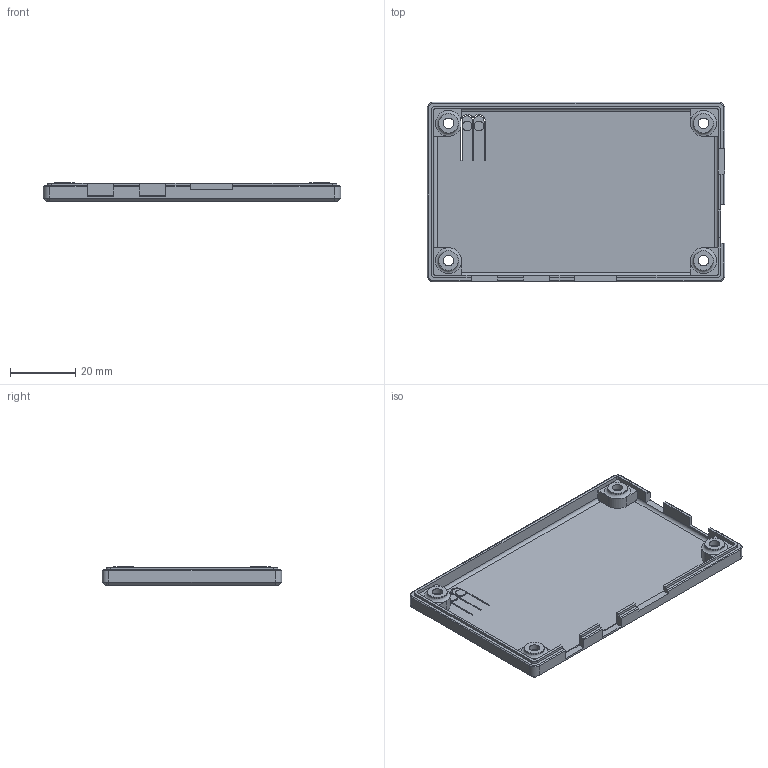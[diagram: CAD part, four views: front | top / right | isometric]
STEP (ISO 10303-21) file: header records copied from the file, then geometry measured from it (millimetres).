
FILE_DESCRIPTION(/* description */ (''),/* implementation_level */ '2;1');
FILE_NAME(/* name */ 'Back.step',/* time_stamp */ '2023-12-18T21:36:47-08:00',/* author */ (''),/* organization */ (''),/* preprocessor_version */ 'ST-DEVELOPER v20',/* originating_system */ 'Autodesk Translation Framework v12.14.0.127',/* authorisation */ '');
FILE_SCHEMA (('AUTOMOTIVE_DESIGN { 1 0 10303 214 3 1 1 }'));
Length unit declared in the file: millimetre
Products named in the file (1): Back
Bounding box: 91 x 55 x 5.75 mm (x, y, z)
Volume: 6739.6 mm3; surface area: 12707 mm2
Topology: 1 solids, 1 shells, 145 faces, 393 edges, 251 vertices
Faces by surface type: plane 90, cylinder 39, cone 12, torus 4
Full cylindrical faces by diameter (mm): 2.969 x2, 3.2 x4, 6 x8
Entity records: 4592 total; most frequent: CARTESIAN_POINT 803, DIRECTION 790, ORIENTED_EDGE 786, EDGE_CURVE 393, LINE 284, VECTOR 284, AXIS2_PLACEMENT_3D 253, VERTEX_POINT 251
